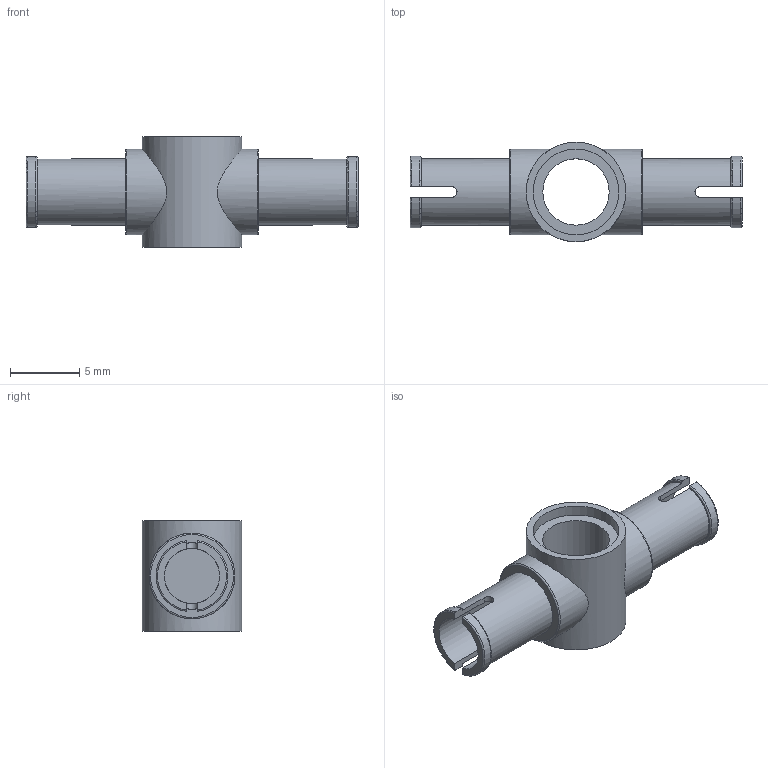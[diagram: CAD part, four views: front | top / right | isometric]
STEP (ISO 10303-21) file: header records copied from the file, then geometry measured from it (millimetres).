
FILE_DESCRIPTION(/* description */ ('Unknown'),/* implementation_level */ '2;1');
FILE_NAME(/* name */ 'ClGray_4560175_AVV',/* time_stamp */ '2025-07-21T23:57:11+02:00',/* author */ ('Unknown'),/* organization */ ('Unknown'),/* preprocessor_version */ 'ST-DEVELOPER v19.4',/* originating_system */ 'Solid Edge',/* authorisation */ 'Unknown');
FILE_SCHEMA (('AUTOMOTIVE_DESIGN {1 0 10303 214 3 1 1}'));
Length unit declared in the file: millimetre
Products named in the file (1): ClGray_4560175_AVV
Bounding box: 24 x 7.2 x 8 mm (x, y, z)
Volume: 316.3 mm3; surface area: 841.7 mm2
Topology: 1 solids, 1 shells, 52 faces, 133 edges, 88 vertices
Faces by surface type: plane 24, cylinder 18, torus 10
Full cylindrical faces by diameter (mm): 4 x2, 4.8 x3, 6.2 x4, 7.2 x1
Entity records: 1568 total; most frequent: CARTESIAN_POINT 373, DIRECTION 234, ORIENTED_EDGE 228, EDGE_CURVE 114, AXIS2_PLACEMENT_3D 93, VERTEX_POINT 82, EDGE_LOOP 72, FACE_BOUND 72
